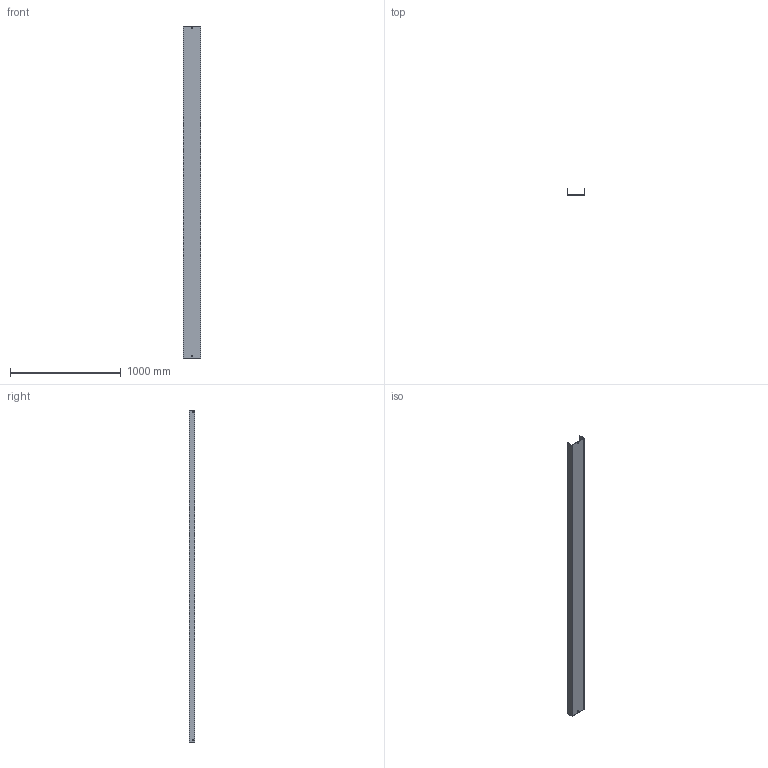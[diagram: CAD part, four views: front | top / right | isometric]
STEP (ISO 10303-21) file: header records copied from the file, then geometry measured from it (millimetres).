
FILE_DESCRIPTION (( 'STEP AP214' ), '1' );
FILE_NAME ('03B3B150.step', '2025-02-21T10:13:29', ( '' ), ( '' ), 'SwSTEP 2.0', 'SolidWorks 2023', '' );
FILE_SCHEMA (( 'AUTOMOTIVE_DESIGN' ));
Length unit declared in the file: millimetre
Products named in the file (1): 03B3B150
Bounding box: 154 x 52 x 3000 mm (x, y, z)
Volume: 2634110.5 mm3; surface area: 1528656 mm2
Topology: 1 solids, 1 shells, 34 faces, 96 edges, 64 vertices
Faces by surface type: plane 34
Entity records: 1127 total; most frequent: CARTESIAN_POINT 195, ORIENTED_EDGE 192, DIRECTION 166, EDGE_CURVE 96, VECTOR 96, LINE 96, VERTEX_POINT 64, EDGE_LOOP 46
